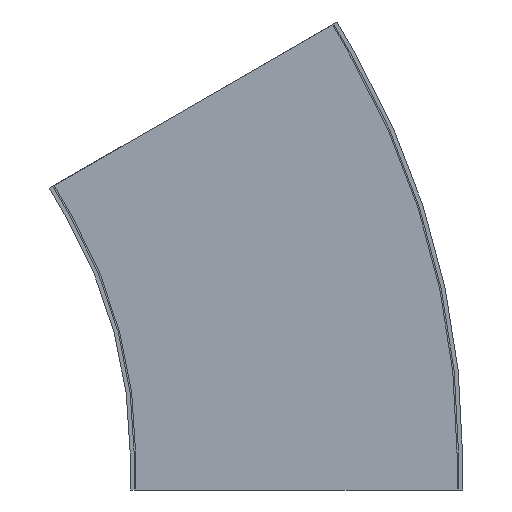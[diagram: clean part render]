
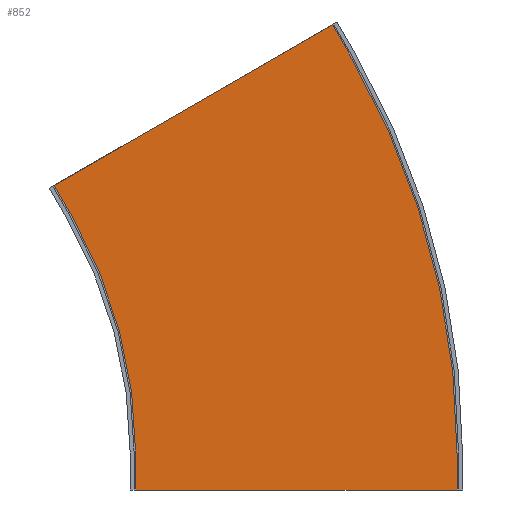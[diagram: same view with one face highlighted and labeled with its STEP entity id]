
A CAD part, front view. The second image highlights one B-rep face of the part: STEP entity #852.
In plain terms, the highlighted planar face has unit normal (0, -1, 0).
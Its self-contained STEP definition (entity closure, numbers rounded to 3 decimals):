
#64 = VECTOR ( 'NONE', #2050, 1000. ) ;
#95 = CARTESIAN_POINT ( 'NONE',  ( 596.162, -68.25, 404.816 ) ) ;
#128 = VERTEX_POINT ( 'NONE', #2017 ) ;
#169 = FACE_OUTER_BOUND ( 'NONE', #1704, .T. ) ;
#194 = CIRCLE ( 'NONE', #1757, 1201.3 ) ;
#209 = EDGE_CURVE ( 'NONE', #2265, #216, #1146, .T. ) ;
#216 = VERTEX_POINT ( 'NONE', #398 ) ;
#279 = DIRECTION ( 'NONE',  ( 0.5, 0., -0.866 ) ) ;
#384 = LINE ( 'NONE', #95, #1239 ) ;
#398 = CARTESIAN_POINT ( 'NONE',  ( 718.7, -68.25, 0. ) ) ;
#439 = DIRECTION ( 'NONE',  ( 0., 0., 1. ) ) ;
#447 = ORIENTED_EDGE ( 'NONE', *, *, #209, .F. ) ;
#448 = CARTESIAN_POINT ( 'NONE',  ( 1014.106, -68.25, 646.116 ) ) ;
#538 = CARTESIAN_POINT ( 'NONE',  ( -26.25, -68.25, 45.466 ) ) ;
#569 = DIRECTION ( 'NONE',  ( 0., 1., 0. ) ) ;
#588 = VECTOR ( 'NONE', #439, 1000. ) ;
#596 = DIRECTION ( 'NONE',  ( -1., 0., 0. ) ) ;
#609 = EDGE_CURVE ( 'NONE', #1979, #811, #384, .T. ) ;
#667 = VERTEX_POINT ( 'NONE', #2053 ) ;
#742 = EDGE_CURVE ( 'NONE', #1979, #2205, #1024, .T. ) ;
#749 = PLANE ( 'NONE',  #1130 ) ;
#800 = ORIENTED_EDGE ( 'NONE', *, *, #1487, .F. ) ;
#806 = CARTESIAN_POINT ( 'NONE',  ( 1201.3, -68.25, -52.5 ) ) ;
#811 = VERTEX_POINT ( 'NONE', #2254 ) ;
#852 = ADVANCED_FACE ( 'NONE', ( #169 ), #749, .F. ) ;
#901 = LINE ( 'NONE', #448, #2123 ) ;
#921 = DIRECTION ( 'NONE',  ( 0., 1., 0. ) ) ;
#948 = EDGE_CURVE ( 'NONE', #1471, #667, #2477, .T. ) ;
#961 = ORIENTED_EDGE ( 'NONE', *, *, #977, .F. ) ;
#977 = EDGE_CURVE ( 'NONE', #1471, #2265, #2098, .T. ) ;
#1005 = DIRECTION ( 'NONE',  ( 0.5, 0., -0.866 ) ) ;
#1024 = LINE ( 'NONE', #538, #1169 ) ;
#1107 = DIRECTION ( 'NONE',  ( -1., 0., 0. ) ) ;
#1113 = DIRECTION ( 'NONE',  ( 0., 1., 0. ) ) ;
#1130 = AXIS2_PLACEMENT_3D ( 'NONE', #2475, #569, #1513 ) ;
#1146 = LINE ( 'NONE', #1675, #64 ) ;
#1169 = VECTOR ( 'NONE', #1646, 1000. ) ;
#1170 = EDGE_CURVE ( 'NONE', #2205, #128, #901, .T. ) ;
#1207 = ORIENTED_EDGE ( 'NONE', *, *, #948, .T. ) ;
#1223 = ORIENTED_EDGE ( 'NONE', *, *, #1682, .T. ) ;
#1239 = VECTOR ( 'NONE', #279, 1000. ) ;
#1262 = CIRCLE ( 'NONE', #2272, 718.7 ) ;
#1291 = CARTESIAN_POINT ( 'NONE',  ( 1201.3, -68.25, -52.5 ) ) ;
#1337 = ORIENTED_EDGE ( 'NONE', *, *, #742, .F. ) ;
#1420 = CARTESIAN_POINT ( 'NONE',  ( 1014.106, -68.25, 646.116 ) ) ;
#1471 = VERTEX_POINT ( 'NONE', #1291 ) ;
#1487 = EDGE_CURVE ( 'NONE', #128, #667, #194, .T. ) ;
#1513 = DIRECTION ( 'NONE',  ( -1., 0., 0. ) ) ;
#1592 = ORIENTED_EDGE ( 'NONE', *, *, #1170, .F. ) ;
#1646 = DIRECTION ( 'NONE',  ( 0.866, 0., 0.5 ) ) ;
#1675 = CARTESIAN_POINT ( 'NONE',  ( 718.7, -68.25, -52.5 ) ) ;
#1682 = EDGE_CURVE ( 'NONE', #811, #216, #1262, .T. ) ;
#1704 = EDGE_LOOP ( 'NONE', ( #1223, #447, #961, #1207, #800, #1592, #1337, #1969 ) ) ;
#1740 = VECTOR ( 'NONE', #596, 1000. ) ;
#1757 = AXIS2_PLACEMENT_3D ( 'NONE', #2261, #1113, #2463 ) ;
#1761 = CARTESIAN_POINT ( 'NONE',  ( 0., -68.25, -52.5 ) ) ;
#1969 = ORIENTED_EDGE ( 'NONE', *, *, #609, .T. ) ;
#1976 = CARTESIAN_POINT ( 'NONE',  ( 596.162, -68.25, 404.816 ) ) ;
#1979 = VERTEX_POINT ( 'NONE', #1976 ) ;
#2017 = CARTESIAN_POINT ( 'NONE',  ( 1040.356, -68.25, 600.65 ) ) ;
#2050 = DIRECTION ( 'NONE',  ( 0., 0., 1. ) ) ;
#2053 = CARTESIAN_POINT ( 'NONE',  ( 1201.3, -68.25, 0. ) ) ;
#2098 = LINE ( 'NONE', #1761, #1740 ) ;
#2123 = VECTOR ( 'NONE', #1005, 1000. ) ;
#2205 = VERTEX_POINT ( 'NONE', #1420 ) ;
#2254 = CARTESIAN_POINT ( 'NONE',  ( 622.412, -68.25, 359.35 ) ) ;
#2256 = CARTESIAN_POINT ( 'NONE',  ( 0., -68.25, 0. ) ) ;
#2261 = CARTESIAN_POINT ( 'NONE',  ( 0., -68.25, 0. ) ) ;
#2265 = VERTEX_POINT ( 'NONE', #2372 ) ;
#2272 = AXIS2_PLACEMENT_3D ( 'NONE', #2256, #921, #1107 ) ;
#2372 = CARTESIAN_POINT ( 'NONE',  ( 718.7, -68.25, -52.5 ) ) ;
#2463 = DIRECTION ( 'NONE',  ( -1., 0., 0. ) ) ;
#2475 = CARTESIAN_POINT ( 'NONE',  ( 622.412, -68.25, 359.35 ) ) ;
#2477 = LINE ( 'NONE', #806, #588 ) ;
